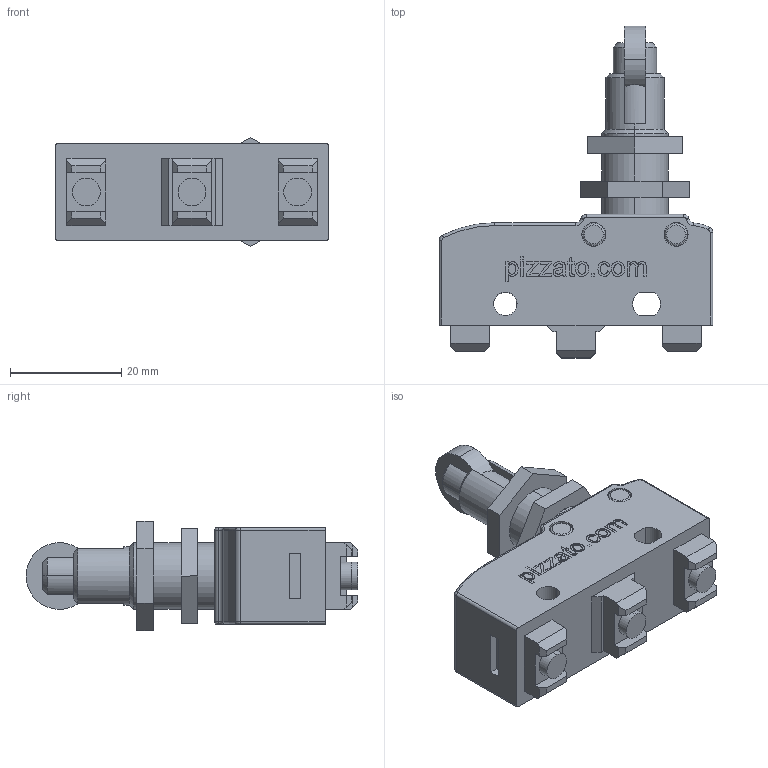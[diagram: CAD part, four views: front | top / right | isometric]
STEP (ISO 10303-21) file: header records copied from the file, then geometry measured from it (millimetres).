
FILE_DESCRIPTION (( 'STEP AP203' ), '1' );
FILE_NAME ('Pizzato_MK_VxxD17.step', '2009-01-29T23:43:43', ( 'Pizzato Elettrica Srl' ), ( '' ), 'SwSTEP 2.0', 'SolidWorks 2008', '' );
FILE_SCHEMA (( 'CONFIG_CONTROL_DESIGN' ));
Length unit declared in the file: millimetre
Products named in the file (5): Pizzato_Custodia_MK_MKV_06-17; Pizzato_Supporto MK15; Pizzato_Pistoncino_MK15; Pizzato_MK_VxxD17; Pizzato_Dado_35_35
Assembly tree (5 placements, depth 2):
  Pizzato_MK_VxxD17
    Pizzato_Pistoncino_MK15
    Pizzato_Dado_35_35  x2
    Pizzato_Supporto MK15
    Pizzato_Custodia_MK_MKV_06-17
Bounding box: 49.2 x 59.7 x 19.63 mm (x, y, z)
Volume: 20002.8 mm3; surface area: 8924.1 mm2
Topology: 5 solids, 5 shells, 495 faces, 1274 edges, 837 vertices
Faces by surface type: plane 306, cylinder 87, bspline 69, torus 26, cone 7
Entity records: 18630 total; most frequent: CARTESIAN_POINT 6511, ORIENTED_EDGE 2500, DIRECTION 2181, EDGE_CURVE 1250, LINE 871, VECTOR 871, VERTEX_POINT 821, AXIS2_PLACEMENT_3D 655
